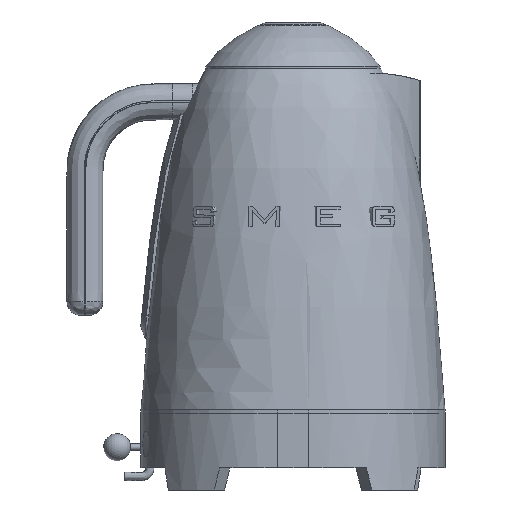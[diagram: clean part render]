
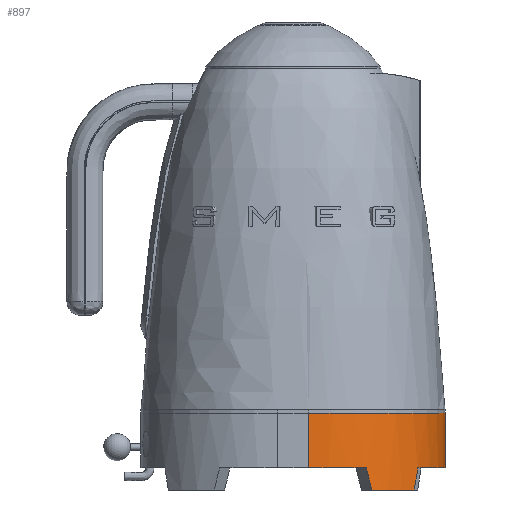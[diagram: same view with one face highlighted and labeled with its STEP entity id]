
A CAD part, front view. The second image highlights one B-rep face of the part: STEP entity #897.
In plain terms, the highlighted cylindrical face has radius 80 mm (diameter 160 mm), a partial arc.
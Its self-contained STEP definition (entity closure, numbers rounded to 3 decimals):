
#349=CYLINDRICAL_SURFACE('',#5983,80.);
#417=ELLIPSE('',#5981,309.096,80.);
#418=ELLIPSE('',#5982,309.096,80.);
#897=ADVANCED_FACE('',(#1438),#349,.T.);
#1438=FACE_OUTER_BOUND('',#1769,.T.);
#1769=EDGE_LOOP('',(#3277,#3278,#3279,#3280,#3281,#3282,#3283,#3284));
#2089=CIRCLE('',#5965,80.);
#2093=CIRCLE('',#5971,80.);
#2095=CIRCLE('',#5973,80.);
#2099=CIRCLE('',#5980,80.);
#2259=LINE('',#10919,#2586);
#2260=LINE('',#10923,#2587);
#2586=VECTOR('',#6622,1.);
#2587=VECTOR('',#6627,1.);
#3277=ORIENTED_EDGE('',*,*,#5271,.T.);
#3278=ORIENTED_EDGE('',*,*,#5272,.F.);
#3279=ORIENTED_EDGE('',*,*,#5258,.F.);
#3280=ORIENTED_EDGE('',*,*,#5273,.F.);
#3281=ORIENTED_EDGE('',*,*,#5244,.F.);
#3282=ORIENTED_EDGE('',*,*,#5274,.F.);
#3283=ORIENTED_EDGE('',*,*,#5254,.F.);
#3284=ORIENTED_EDGE('',*,*,#5270,.T.);
#4628=VERTEX_POINT('',#10870);
#4629=VERTEX_POINT('',#10872);
#4635=VERTEX_POINT('',#10889);
#4636=VERTEX_POINT('',#10891);
#4639=VERTEX_POINT('',#10897);
#4640=VERTEX_POINT('',#10899);
#4646=VERTEX_POINT('',#10918);
#4647=VERTEX_POINT('',#10922);
#5244=EDGE_CURVE('',#4628,#4629,#2089,.T.);
#5254=EDGE_CURVE('',#4635,#4636,#2093,.T.);
#5258=EDGE_CURVE('',#4639,#4640,#2095,.T.);
#5270=EDGE_CURVE('',#4635,#4646,#2259,.T.);
#5271=EDGE_CURVE('',#4646,#4647,#2099,.T.);
#5272=EDGE_CURVE('',#4640,#4647,#2260,.T.);
#5273=EDGE_CURVE('',#4629,#4639,#417,.T.);
#5274=EDGE_CURVE('',#4636,#4628,#418,.T.);
#5965=AXIS2_PLACEMENT_3D('',#10871,#6578,#6579);
#5971=AXIS2_PLACEMENT_3D('',#10890,#6596,#6597);
#5973=AXIS2_PLACEMENT_3D('',#10898,#6602,#6603);
#5980=AXIS2_PLACEMENT_3D('',#10921,#6625,#6626);
#5981=AXIS2_PLACEMENT_3D('',#10924,#6628,#6629);
#5982=AXIS2_PLACEMENT_3D('',#10925,#6630,#6631);
#5983=AXIS2_PLACEMENT_3D('',#10926,#6632,#6633);
#6578=DIRECTION('',(0.,0.,-1.));
#6579=DIRECTION('',(1.,0.,0.));
#6596=DIRECTION('',(0.,0.,-1.));
#6597=DIRECTION('',(1.,0.,0.));
#6602=DIRECTION('',(0.,0.,-1.));
#6603=DIRECTION('',(1.,0.,0.));
#6622=DIRECTION('',(0.,0.,1.));
#6625=DIRECTION('',(0.,0.,-1.));
#6626=DIRECTION('',(1.,0.,0.));
#6627=DIRECTION('',(0.,0.,1.));
#6628=DIRECTION('',(-0.837,-0.483,-0.259));
#6629=DIRECTION('',(-0.224,-0.129,0.966));
#6630=DIRECTION('',(0.621,0.74,-0.259));
#6631=DIRECTION('',(0.166,0.198,0.966));
#6632=DIRECTION('',(0.,0.,1.));
#6633=DIRECTION('',(1.,0.,0.));
#10870=CARTESIAN_POINT('',(260.701,-122.384,-27.));
#10871=CARTESIAN_POINT('',(198.71,-71.815,-27.));
#10872=CARTESIAN_POINT('',(235.823,-142.686,-27.));
#10889=CARTESIAN_POINT('',(278.71,-71.815,-14.));
#10890=CARTESIAN_POINT('',(198.71,-71.815,-14.));
#10891=CARTESIAN_POINT('',(262.844,-119.635,-14.));
#10897=CARTESIAN_POINT('',(232.696,-144.237,-14.));
#10898=CARTESIAN_POINT('',(198.71,-71.815,-14.));
#10899=CARTESIAN_POINT('',(198.71,-151.815,-14.));
#10918=CARTESIAN_POINT('',(278.71,-71.815,18.));
#10919=CARTESIAN_POINT('',(278.71,-71.815,-14.));
#10921=CARTESIAN_POINT('',(198.71,-71.815,18.));
#10922=CARTESIAN_POINT('',(198.71,-151.815,18.));
#10923=CARTESIAN_POINT('',(198.71,-151.815,-14.));
#10924=CARTESIAN_POINT('',(198.71,-71.815,-39.294));
#10925=CARTESIAN_POINT('',(198.71,-71.815,-31.14));
#10926=CARTESIAN_POINT('',(198.71,-71.815,-14.));
